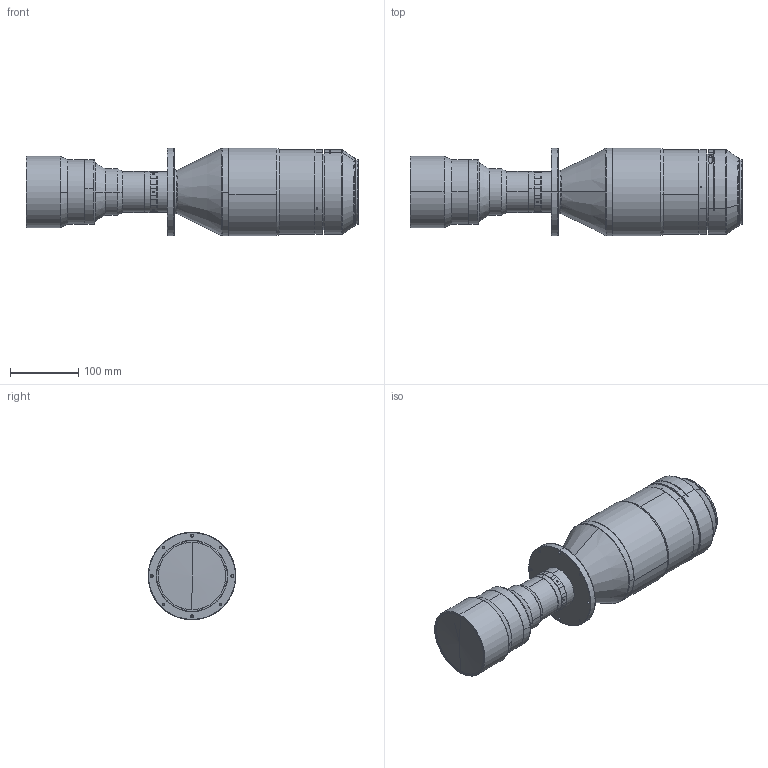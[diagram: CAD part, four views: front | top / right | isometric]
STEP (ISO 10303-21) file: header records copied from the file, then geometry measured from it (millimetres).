
FILE_DESCRIPTION (( 'STEP AP203' ), '1' );
FILE_NAME ('DTCA24K-58.7-G-M95-AL.STEP', '2023-09-19T10:03:44', ( '' ), ( '' ), 'SwSTEP 2.0', 'SolidWorks 2017', '' );
FILE_SCHEMA (( 'CONFIG_CONTROL_DESIGN' ));
Length unit declared in the file: millimetre
Products named in the file (1): DTCA24K-58.7-G-M95-AL
Bounding box: 485.35 x 128 x 128 mm (x, y, z)
Volume: 3972351.9 mm3; surface area: 222029.1 mm2
Topology: 1 solids, 2 shells, 360 faces, 823 edges, 515 vertices
Faces by surface type: cylinder 161, cone 97, plane 70, bspline 32
Entity records: 11474 total; most frequent: CARTESIAN_POINT 3248, DIRECTION 1809, ORIENTED_EDGE 1634, EDGE_CURVE 817, AXIS2_PLACEMENT_3D 776, VERTEX_POINT 515, CIRCLE 447, EDGE_LOOP 434
